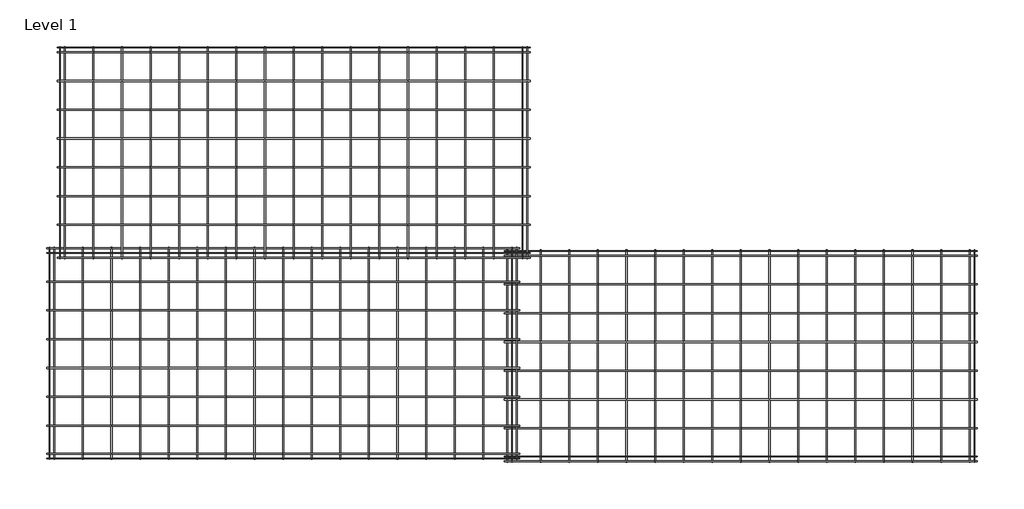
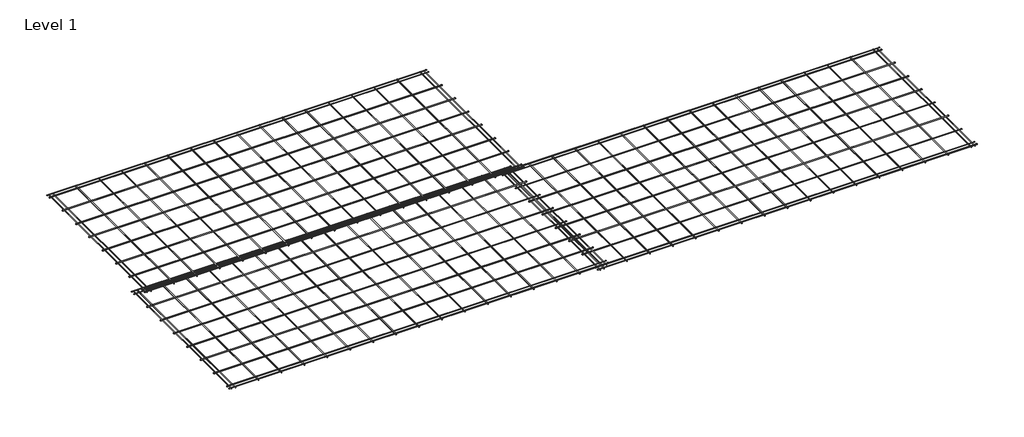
# One storey: 3 proxies.
"""IFC4 building model written with IfcOpenShell, lengths in millimetres."""

from ifc_helpers import new_model, si_unit, origin, place, context, project, spatial, transform, mapped, element, save
from components import united_steel_84_double_edge_mesh_united_steel_84_double_edge_cd531168

model = new_model("IFC4")

# Units and contexts
model_context = context("Model", 3, world=origin())
ifc_project = project(units=[si_unit("LENGTHUNIT", "METRE", prefix="MILLI")], contexts=[model_context])

# Site, building, storey
site = spatial("IfcSite", under=ifc_project)
building = spatial("IfcBuilding", under=site)
storey = spatial("IfcBuildingStorey", under=building, Name="Level 1", Elevation=0.0)

# Proxies
placement = place(None, origin())
united_steel_84_double_edge_mesh_united_steel_84_double_edge_shape = united_steel_84_double_edge_mesh_united_steel_84_double_edge_cd531168(model_context)
element("IfcBuildingElementProxy", 1, Name="United Steel 84 Double Edge Mesh : United Steel 84 Double Edge Mesh", ObjectType="United Steel 84 Double Edge Mesh : United Steel 84 Double Edge Mesh", at=placement, inside=storey, context=model_context, shape_type="MappedRepresentation", body=[
    mapped(united_steel_84_double_edge_mesh_united_steel_84_double_edge_shape, transform((5436.2856589, 2171.3157499, 93.125), x_axis=(1.0, 0.0, 0.0), y_axis=(0.0, 1.0, 0.0), z_axis=(0.0, 0.0, 1.0))),
])
element("IfcBuildingElementProxy", 2, Name="United Steel 84 Double Edge Mesh : United Steel 84 Double Edge Mesh", ObjectType="United Steel 84 Double Edge Mesh : United Steel 84 Double Edge Mesh", at=placement, inside=storey, context=model_context, shape_type="MappedRepresentation", body=[
    mapped(united_steel_84_double_edge_mesh_united_steel_84_double_edge_shape, transform((5546.2856589, 4271.2261808, 112.34375), x_axis=(1.0, 0.0, 0.0), y_axis=(0.0, 1.0, 0.0), z_axis=(0.0, 0.0, 1.0))),
])
element("IfcBuildingElementProxy", 3, Name="United Steel 84 Double Edge Mesh : United Steel 84 Double Edge Mesh", ObjectType="United Steel 84 Double Edge Mesh : United Steel 84 Double Edge Mesh", at=placement, inside=storey, context=model_context, shape_type="MappedRepresentation", body=[
    mapped(united_steel_84_double_edge_mesh_united_steel_84_double_edge_shape, transform((10226.1955059, 2142.5757703, 73.8085938), x_axis=(1.0, 0.0, 0.0), y_axis=(0.0, 1.0, 0.0), z_axis=(0.0, 0.0, 1.0))),
])

save(model, "model.ifc")
